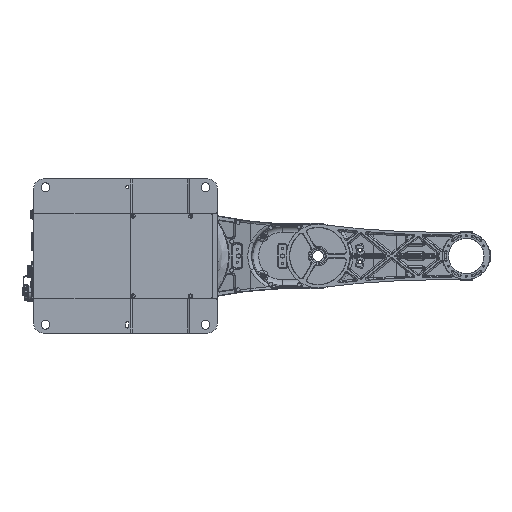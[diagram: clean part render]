
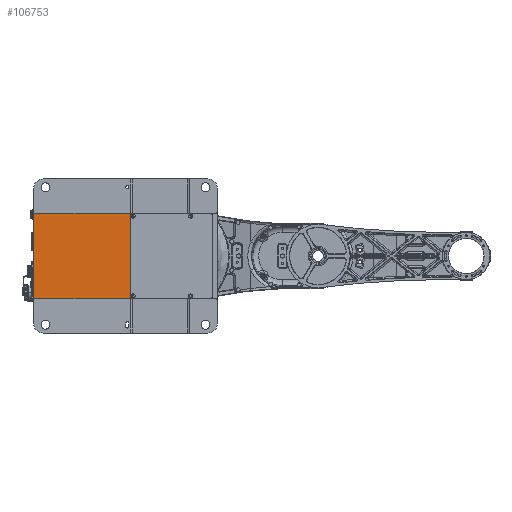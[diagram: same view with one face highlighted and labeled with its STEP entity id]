
A CAD part, front view. The second image highlights one B-rep face of the part: STEP entity #106753.
In plain terms, the highlighted planar face has unit normal (0, -1, 0).
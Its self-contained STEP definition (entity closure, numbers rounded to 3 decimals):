
#3345 = DIRECTION ( 'NONE',  ( 1., 0., 0. ) ) ;
#3654 = LINE ( 'NONE', #178833, #92151 ) ;
#4900 = CARTESIAN_POINT ( 'NONE',  ( 213.215, -242.714, 72. ) ) ;
#8791 = FACE_OUTER_BOUND ( 'NONE', #32432, .T. ) ;
#9031 = DIRECTION ( 'NONE',  ( 0., -1., 0. ) ) ;
#20984 = ORIENTED_EDGE ( 'NONE', *, *, #31112, .T. ) ;
#26846 = ORIENTED_EDGE ( 'NONE', *, *, #71307, .T. ) ;
#31112 = EDGE_CURVE ( 'NONE', #127821, #244147, #171123, .T. ) ;
#32432 = EDGE_LOOP ( 'NONE', ( #65926, #20984, #44154, #89905, #26846, #156462 ) ) ;
#40382 = VECTOR ( 'NONE', #219623, 1000. ) ;
#40595 = CARTESIAN_POINT ( 'NONE',  ( -5.848, -242.714, 130. ) ) ;
#44019 = VERTEX_POINT ( 'NONE', #224161 ) ;
#44154 = ORIENTED_EDGE ( 'NONE', *, *, #178093, .T. ) ;
#64099 = EDGE_CURVE ( 'NONE', #44019, #127821, #229201, .T. ) ;
#65926 = ORIENTED_EDGE ( 'NONE', *, *, #64099, .T. ) ;
#71307 = EDGE_CURVE ( 'NONE', #182533, #115557, #201187, .T. ) ;
#78410 = CARTESIAN_POINT ( 'NONE',  ( 213.215, -242.714, -72. ) ) ;
#89905 = ORIENTED_EDGE ( 'NONE', *, *, #195339, .T. ) ;
#90657 = VECTOR ( 'NONE', #3345, 1000. ) ;
#92151 = VECTOR ( 'NONE', #103814, 1000. ) ;
#96427 = LINE ( 'NONE', #201497, #40382 ) ;
#103814 = DIRECTION ( 'NONE',  ( 0., 0., 1. ) ) ;
#106753 = ADVANCED_FACE ( 'NONE', ( #8791 ), #178037, .T. ) ;
#113198 = DIRECTION ( 'NONE',  ( 0., 0., 1. ) ) ;
#115557 = VERTEX_POINT ( 'NONE', #122046 ) ;
#122046 = CARTESIAN_POINT ( 'NONE',  ( -169.348, -242.714, 72. ) ) ;
#126925 = VECTOR ( 'NONE', #113198, 1000. ) ;
#127821 = VERTEX_POINT ( 'NONE', #152874 ) ;
#129811 = CARTESIAN_POINT ( 'NONE',  ( -5.848, -242.714, -67. ) ) ;
#137581 = DIRECTION ( 'NONE',  ( -1., 0., 0. ) ) ;
#140903 = DIRECTION ( 'NONE',  ( -1., 0., 0. ) ) ;
#148409 = LINE ( 'NONE', #40595, #242755 ) ;
#152874 = CARTESIAN_POINT ( 'NONE',  ( -5.848, -242.714, -72. ) ) ;
#153494 = DIRECTION ( 'NONE',  ( 0., 0., 1. ) ) ;
#156462 = ORIENTED_EDGE ( 'NONE', *, *, #183855, .F. ) ;
#163116 = VERTEX_POINT ( 'NONE', #194399 ) ;
#163647 = CARTESIAN_POINT ( 'NONE',  ( -5.848, -242.714, 72. ) ) ;
#171123 = LINE ( 'NONE', #226104, #126925 ) ;
#178037 = PLANE ( 'NONE',  #205980 ) ;
#178093 = EDGE_CURVE ( 'NONE', #244147, #163116, #3654, .T. ) ;
#178833 = CARTESIAN_POINT ( 'NONE',  ( -5.848, -242.714, -72. ) ) ;
#182533 = VERTEX_POINT ( 'NONE', #163647 ) ;
#183855 = EDGE_CURVE ( 'NONE', #44019, #115557, #96427, .T. ) ;
#189300 = VECTOR ( 'NONE', #137581, 1000. ) ;
#194399 = CARTESIAN_POINT ( 'NONE',  ( -5.848, -242.714, 67. ) ) ;
#195339 = EDGE_CURVE ( 'NONE', #163116, #182533, #148409, .T. ) ;
#201187 = LINE ( 'NONE', #4900, #189300 ) ;
#201497 = CARTESIAN_POINT ( 'NONE',  ( -169.348, -242.714, 80. ) ) ;
#205980 = AXIS2_PLACEMENT_3D ( 'NONE', #234860, #9031, #140903 ) ;
#219623 = DIRECTION ( 'NONE',  ( 0., 0., 1. ) ) ;
#224161 = CARTESIAN_POINT ( 'NONE',  ( -169.348, -242.714, -72. ) ) ;
#226104 = CARTESIAN_POINT ( 'NONE',  ( -5.848, -242.714, -72. ) ) ;
#229201 = LINE ( 'NONE', #78410, #90657 ) ;
#234860 = CARTESIAN_POINT ( 'NONE',  ( 60.652, -242.714, 0. ) ) ;
#242755 = VECTOR ( 'NONE', #153494, 1000. ) ;
#244147 = VERTEX_POINT ( 'NONE', #129811 ) ;
